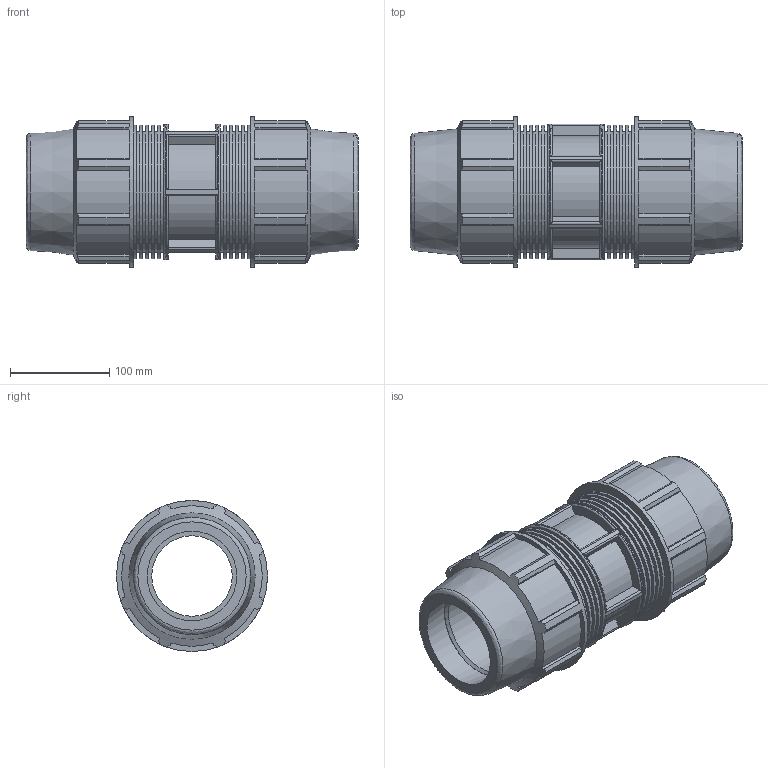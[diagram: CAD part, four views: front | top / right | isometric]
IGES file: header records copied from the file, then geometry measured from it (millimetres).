
Global section: file name: 870100090_180100090.ipt; native system: Autodesk Inventor 2015; preprocessor: unknown; author: KIM; date: 20170608.042306; units: millimetre
Bounding box: 334 x 152 x 152 mm (x, y, z)
Volume: 2353466.3 mm3; surface area: 328974.2 mm2
Topology: 1 solids, 1 shells, 216 faces, 561 edges, 378 vertices
Faces by surface type: plane 132, cylinder 57, revolution 23, cone 4
Full cylindrical faces by diameter (mm): 121.6 x10, 134.064 x10, 136.8 x1, 152 x2
